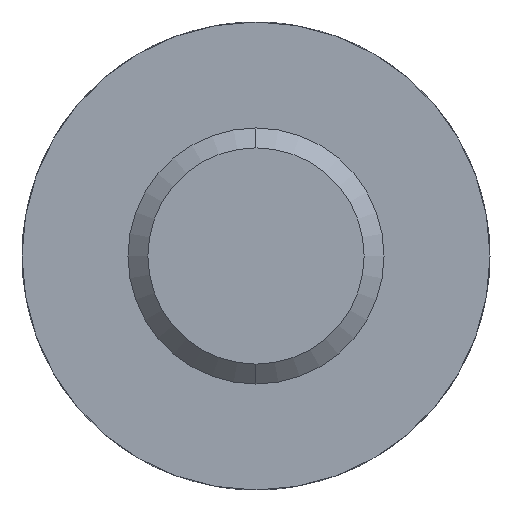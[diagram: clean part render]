
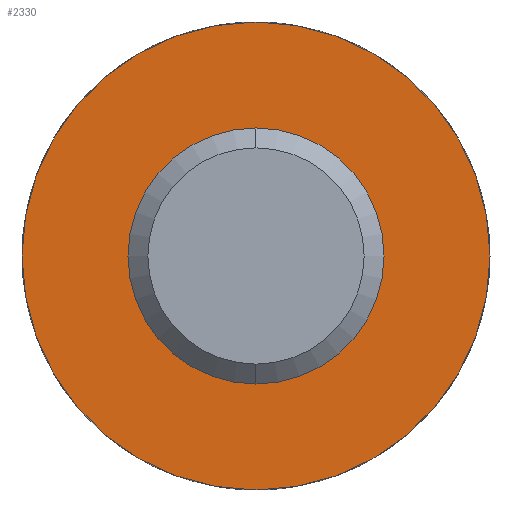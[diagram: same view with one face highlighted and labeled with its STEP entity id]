
A CAD part, left-side view. The second image highlights one B-rep face of the part: STEP entity #2330.
In plain terms, the highlighted planar face has unit normal (-1, 0, 0).
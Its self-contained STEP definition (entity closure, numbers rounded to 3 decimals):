
#143 = DIRECTION ( 'NONE',  ( 1., 0., 0. ) ) ;
#150 = DIRECTION ( 'NONE',  ( -1., 0., 0. ) ) ;
#576 = ORIENTED_EDGE ( 'NONE', *, *, #3204, .T. ) ;
#605 = CARTESIAN_POINT ( 'NONE',  ( 21.955, 0., -2.65 ) ) ;
#825 = VERTEX_POINT ( 'NONE', #2606 ) ;
#1146 = CIRCLE ( 'NONE', #5833, 1.25 ) ;
#1214 = DIRECTION ( 'NONE',  ( 0., 0., 1. ) ) ;
#1221 = DIRECTION ( 'NONE',  ( 0., 0., 1. ) ) ;
#1313 = DIRECTION ( 'NONE',  ( -1., 0., 0. ) ) ;
#1347 = DIRECTION ( 'NONE',  ( -1., 0., 0. ) ) ;
#1421 = CARTESIAN_POINT ( 'NONE',  ( 21.955, 0., 0. ) ) ;
#1628 = CIRCLE ( 'NONE', #6655, 2.65 ) ;
#1894 = EDGE_CURVE ( 'NONE', #7185, #2150, #5728, .T. ) ;
#2150 = VERTEX_POINT ( 'NONE', #3319 ) ;
#2214 = EDGE_CURVE ( 'NONE', #825, #2894, #1628, .T. ) ;
#2330 = ADVANCED_FACE ( 'NONE', ( #4650, #2760 ), #7912, .F. ) ;
#2499 = DIRECTION ( 'NONE',  ( 0., 0., 1. ) ) ;
#2548 = CARTESIAN_POINT ( 'NONE',  ( 21.955, 0., 0. ) ) ;
#2606 = CARTESIAN_POINT ( 'NONE',  ( 21.955, 0., 2.65 ) ) ;
#2760 = FACE_OUTER_BOUND ( 'NONE', #7434, .T. ) ;
#2894 = VERTEX_POINT ( 'NONE', #605 ) ;
#3104 = CARTESIAN_POINT ( 'NONE',  ( 21.955, 0., 0. ) ) ;
#3120 = AXIS2_PLACEMENT_3D ( 'NONE', #7990, #143, #7783 ) ;
#3204 = EDGE_CURVE ( 'NONE', #2894, #825, #6509, .T. ) ;
#3246 = EDGE_CURVE ( 'NONE', #2150, #7185, #1146, .T. ) ;
#3319 = CARTESIAN_POINT ( 'NONE',  ( 21.955, 0., -1.25 ) ) ;
#3598 = ORIENTED_EDGE ( 'NONE', *, *, #3246, .F. ) ;
#4257 = CARTESIAN_POINT ( 'NONE',  ( 21.955, 0., 1.25 ) ) ;
#4620 = AXIS2_PLACEMENT_3D ( 'NONE', #3104, #1313, #1221 ) ;
#4650 = FACE_BOUND ( 'NONE', #7305, .T. ) ;
#5713 = AXIS2_PLACEMENT_3D ( 'NONE', #2548, #150, #2499 ) ;
#5728 = CIRCLE ( 'NONE', #5713, 1.25 ) ;
#5833 = AXIS2_PLACEMENT_3D ( 'NONE', #7324, #7306, #7284 ) ;
#6509 = CIRCLE ( 'NONE', #4620, 2.65 ) ;
#6655 = AXIS2_PLACEMENT_3D ( 'NONE', #1421, #1347, #1214 ) ;
#7185 = VERTEX_POINT ( 'NONE', #4257 ) ;
#7284 = DIRECTION ( 'NONE',  ( 0., 0., 1. ) ) ;
#7305 = EDGE_LOOP ( 'NONE', ( #8048, #3598 ) ) ;
#7306 = DIRECTION ( 'NONE',  ( -1., 0., 0. ) ) ;
#7324 = CARTESIAN_POINT ( 'NONE',  ( 21.955, 0., 0. ) ) ;
#7385 = ORIENTED_EDGE ( 'NONE', *, *, #2214, .T. ) ;
#7434 = EDGE_LOOP ( 'NONE', ( #7385, #576 ) ) ;
#7783 = DIRECTION ( 'NONE',  ( 0., 0., -1. ) ) ;
#7912 = PLANE ( 'NONE',  #3120 ) ;
#7990 = CARTESIAN_POINT ( 'NONE',  ( 21.955, 2.65, 0. ) ) ;
#8048 = ORIENTED_EDGE ( 'NONE', *, *, #1894, .F. ) ;
